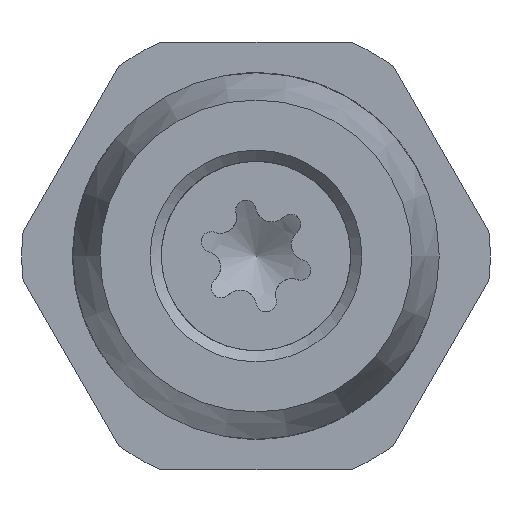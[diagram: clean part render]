
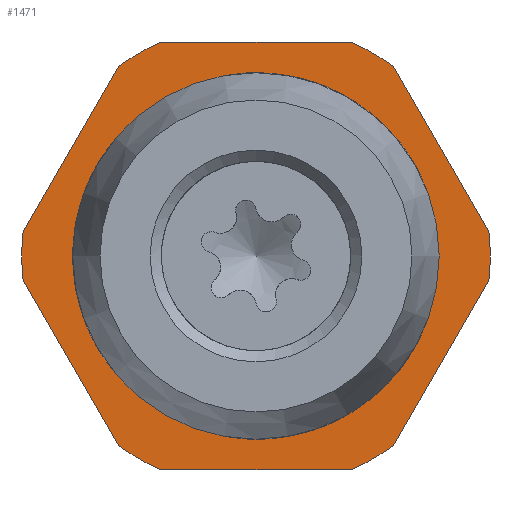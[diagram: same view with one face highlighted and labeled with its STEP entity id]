
A CAD part, front view. The second image highlights one B-rep face of the part: STEP entity #1471.
In plain terms, the highlighted planar face has unit normal (0, -1, 0).
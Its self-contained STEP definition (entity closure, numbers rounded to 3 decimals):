
#62=FACE_BOUND('',#262,.T.);
#80=PLANE('',#1613);
#177=FACE_OUTER_BOUND('',#261,.T.);
#261=EDGE_LOOP('',(#1156,#1157,#1158,#1159,#1160,#1161,#1162,#1163,#1164,
#1165,#1166,#1167));
#262=EDGE_LOOP('',(#1168,#1169));
#352=LINE('',#2770,#440);
#353=LINE('',#2774,#441);
#354=LINE('',#2778,#442);
#355=LINE('',#2782,#443);
#356=LINE('',#2786,#444);
#357=LINE('',#2790,#445);
#440=VECTOR('',#1914,10.);
#441=VECTOR('',#1917,10.);
#442=VECTOR('',#1920,10.);
#443=VECTOR('',#1923,10.);
#444=VECTOR('',#1926,10.);
#445=VECTOR('',#1929,10.);
#518=CIRCLE('',#1611,9.);
#519=CIRCLE('',#1612,9.);
#520=CIRCLE('',#1614,11.5);
#521=CIRCLE('',#1615,11.5);
#522=CIRCLE('',#1616,11.5);
#523=CIRCLE('',#1617,11.5);
#524=CIRCLE('',#1618,11.5);
#525=CIRCLE('',#1619,11.5);
#645=VERTEX_POINT('',#2761);
#646=VERTEX_POINT('',#2762);
#647=VERTEX_POINT('',#2768);
#648=VERTEX_POINT('',#2769);
#649=VERTEX_POINT('',#2771);
#650=VERTEX_POINT('',#2773);
#651=VERTEX_POINT('',#2775);
#652=VERTEX_POINT('',#2777);
#653=VERTEX_POINT('',#2779);
#654=VERTEX_POINT('',#2781);
#655=VERTEX_POINT('',#2783);
#656=VERTEX_POINT('',#2785);
#657=VERTEX_POINT('',#2787);
#658=VERTEX_POINT('',#2789);
#828=EDGE_CURVE('',#645,#646,#518,.T.);
#829=EDGE_CURVE('',#646,#645,#519,.T.);
#832=EDGE_CURVE('',#647,#648,#352,.T.);
#833=EDGE_CURVE('',#649,#648,#520,.T.);
#834=EDGE_CURVE('',#649,#650,#353,.T.);
#835=EDGE_CURVE('',#651,#650,#521,.T.);
#836=EDGE_CURVE('',#651,#652,#354,.T.);
#837=EDGE_CURVE('',#653,#652,#522,.T.);
#838=EDGE_CURVE('',#653,#654,#355,.T.);
#839=EDGE_CURVE('',#655,#654,#523,.T.);
#840=EDGE_CURVE('',#655,#656,#356,.T.);
#841=EDGE_CURVE('',#657,#656,#524,.T.);
#842=EDGE_CURVE('',#657,#658,#357,.T.);
#843=EDGE_CURVE('',#647,#658,#525,.T.);
#1156=ORIENTED_EDGE('',*,*,#832,.T.);
#1157=ORIENTED_EDGE('',*,*,#833,.F.);
#1158=ORIENTED_EDGE('',*,*,#834,.T.);
#1159=ORIENTED_EDGE('',*,*,#835,.F.);
#1160=ORIENTED_EDGE('',*,*,#836,.T.);
#1161=ORIENTED_EDGE('',*,*,#837,.F.);
#1162=ORIENTED_EDGE('',*,*,#838,.T.);
#1163=ORIENTED_EDGE('',*,*,#839,.F.);
#1164=ORIENTED_EDGE('',*,*,#840,.T.);
#1165=ORIENTED_EDGE('',*,*,#841,.F.);
#1166=ORIENTED_EDGE('',*,*,#842,.T.);
#1167=ORIENTED_EDGE('',*,*,#843,.F.);
#1168=ORIENTED_EDGE('',*,*,#828,.T.);
#1169=ORIENTED_EDGE('',*,*,#829,.T.);
#1471=ADVANCED_FACE('',(#177,#62),#80,.T.);
#1611=AXIS2_PLACEMENT_3D('',#2763,#1906,#1907);
#1612=AXIS2_PLACEMENT_3D('',#2764,#1908,#1909);
#1613=AXIS2_PLACEMENT_3D('',#2767,#1912,#1913);
#1614=AXIS2_PLACEMENT_3D('',#2772,#1915,#1916);
#1615=AXIS2_PLACEMENT_3D('',#2776,#1918,#1919);
#1616=AXIS2_PLACEMENT_3D('',#2780,#1921,#1922);
#1617=AXIS2_PLACEMENT_3D('',#2784,#1924,#1925);
#1618=AXIS2_PLACEMENT_3D('',#2788,#1927,#1928);
#1619=AXIS2_PLACEMENT_3D('',#2791,#1930,#1931);
#1906=DIRECTION('center_axis',(0.,1.,0.));
#1907=DIRECTION('ref_axis',(-0.5,0.,0.866));
#1908=DIRECTION('center_axis',(0.,1.,0.));
#1909=DIRECTION('ref_axis',(-0.5,0.,0.866));
#1912=DIRECTION('center_axis',(0.,-1.,0.));
#1913=DIRECTION('ref_axis',(0.,0.,
-1.));
#1914=DIRECTION('',(-0.5,0.,0.866));
#1915=DIRECTION('center_axis',(0.,1.,0.));
#1916=DIRECTION('ref_axis',(-1.,0.,0.));
#1917=DIRECTION('',(-1.,0.,0.));
#1918=DIRECTION('center_axis',(0.,1.,0.));
#1919=DIRECTION('ref_axis',(-1.,0.,0.));
#1920=DIRECTION('',(-0.5,0.,-0.866));
#1921=DIRECTION('center_axis',(0.,1.,0.));
#1922=DIRECTION('ref_axis',(-1.,0.,0.));
#1923=DIRECTION('',(0.5,0.,-0.866));
#1924=DIRECTION('center_axis',(0.,1.,0.));
#1925=DIRECTION('ref_axis',(-1.,0.,0.));
#1926=DIRECTION('',(1.,0.,0.));
#1927=DIRECTION('center_axis',(0.,1.,0.));
#1928=DIRECTION('ref_axis',(-1.,0.,0.));
#1929=DIRECTION('',(0.5,0.,0.866));
#1930=DIRECTION('center_axis',(0.,1.,0.));
#1931=DIRECTION('ref_axis',(-1.,0.,0.));
#2761=CARTESIAN_POINT('',(-4.5,36.2,7.794));
#2762=CARTESIAN_POINT('',(4.5,36.2,-7.794));
#2763=CARTESIAN_POINT('Origin',(0.,36.2,0.));
#2764=CARTESIAN_POINT('Origin',(0.,36.2,0.));
#2767=CARTESIAN_POINT('Origin',(-9.75,36.2,0.));
#2768=CARTESIAN_POINT('',(11.438,36.2,1.188));
#2769=CARTESIAN_POINT('',(6.748,36.2,9.312));
#2770=CARTESIAN_POINT('',(9.39,36.2,4.736));
#2771=CARTESIAN_POINT('',(4.69,36.2,10.5));
#2772=CARTESIAN_POINT('Origin',(0.,36.2,0.));
#2773=CARTESIAN_POINT('',(-4.69,36.2,10.5));
#2774=CARTESIAN_POINT('',(-1.844,36.2,10.5));
#2775=CARTESIAN_POINT('',(-6.748,36.2,9.312));
#2776=CARTESIAN_POINT('Origin',(0.,36.2,0.));
#2777=CARTESIAN_POINT('',(-11.438,36.2,1.188));
#2778=CARTESIAN_POINT('',(-8.796,36.2,5.764));
#2779=CARTESIAN_POINT('',(-11.438,36.2,-1.188));
#2780=CARTESIAN_POINT('Origin',(0.,36.2,0.));
#2781=CARTESIAN_POINT('',(-6.748,36.2,-9.312));
#2782=CARTESIAN_POINT('',(-11.828,36.2,-0.514));
#2783=CARTESIAN_POINT('',(-4.69,36.2,-10.5));
#2784=CARTESIAN_POINT('Origin',(0.,36.2,0.));
#2785=CARTESIAN_POINT('',(4.69,36.2,-10.5));
#2786=CARTESIAN_POINT('',(-7.906,36.2,-10.5));
#2787=CARTESIAN_POINT('',(6.748,36.2,-9.312));
#2788=CARTESIAN_POINT('Origin',(0.,36.2,0.));
#2789=CARTESIAN_POINT('',(11.438,36.2,-1.188));
#2790=CARTESIAN_POINT('',(6.359,36.2,-9.986));
#2791=CARTESIAN_POINT('Origin',(0.,36.2,0.));
